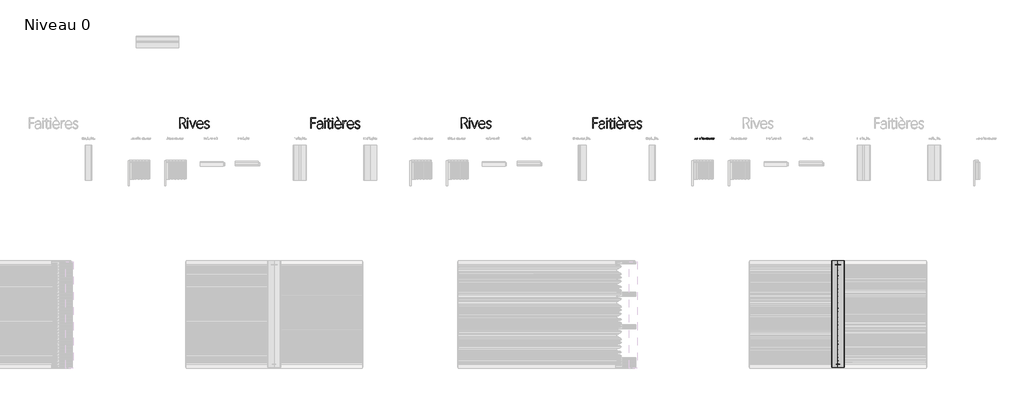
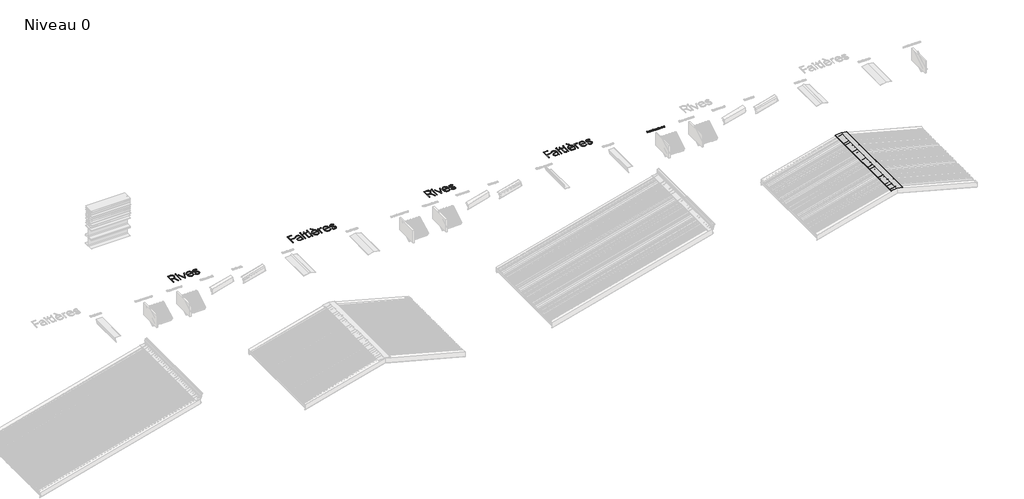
# One storey, part 17 of 26: 6 proxies.
"""IFC4 building model written with IfcOpenShell, lengths in millimetres."""

from ifc_helpers import new_model, si_unit, origin, origin_with_axes, place, context, project, spatial, polyline, outline, extrude, transform, mapped, element, save
from components import generic_models_76f4f1b0

model = new_model("IFC4")

# Units and contexts
model_context = context("Model", 3, world=origin())
ifc_project = project(units=[si_unit("LENGTHUNIT", "METRE", prefix="MILLI")], contexts=[model_context])

# Site, building, storey
site = spatial("IfcSite", under=ifc_project)
building = spatial("IfcBuilding", under=site)
storey = spatial("IfcBuildingStorey", under=building, Name="Niveau 0", Elevation=0.0)

# Proxies
placement = place(None, origin())
generic_models_shape = generic_models_76f4f1b0(model_context)
element("IfcBuildingElementProxy", 1, Name="Faitaire a double plat : Faitaire a double plat", ObjectType="Faitaire a double plat : Faitaire a double plat", at=placement, inside=storey, context=model_context, shape_type="MappedRepresentation", body=[
    mapped(generic_models_shape, transform((19316.3996071, -11691.4337097, 680.0), x_axis=(0.0, -1.0, 0.0), y_axis=(1.0, 0.0, 0.0), z_axis=(0.0, 0.0, 1.0))),
])
element("IfcBuildingElementProxy", 2, Name="0.5mm", ObjectType="0.5mm", at=placement, inside=storey, context=model_context, shape_type="SweptSolid", body=[
    extrude(outline(polyline([(15256.8583104, -8239.2596825), (15275.5442354, -8189.2569805), (15277.5377974, -8189.2569805), (15295.9410531, -8239.2596825), (15293.4714165, -8239.2596825), (15287.5353623, -8223.1177808), (15265.3235105, -8223.1177808), (15259.327947, -8239.2596825), (15256.8583104, -8239.2596825)]), holes=[polyline([(15266.1268862, -8220.9159361), (15286.7022319, -8220.9159361), (15277.879976, -8196.8890501), (15277.1509869, -8194.7987854), (15276.5261391, -8192.8870487), (15275.7153246, -8194.8211014), (15274.9937742, -8196.8295408), (15266.1268862, -8220.9159361)])]), origin_with_axes(), (0.0, 0.0, 1.0), 10.0),
    extrude(outline(polyline([(15319.1645633, -8205.5476555), (15317.4387932, -8204.960001), (15315.713023, -8204.803789), (15308.3710613, -8209.0066344), (15305.4922982, -8221.1242187), (15305.4922982, -8239.2596825), (15303.3648402, -8239.2596825), (15303.3648402, -8203.5540934), (15305.4922982, -8203.5540934), (15305.4922982, -8211.4390777), (15309.5017383, -8205.071581), (15315.8171643, -8202.8251043), (15317.8702357, -8202.9961936), (15319.9976937, -8203.6582347), (15319.1645633, -8205.5476555)])), origin_with_axes(), (0.0, 0.0, 1.0), 10.0),
    extrude(outline(polyline([(15342.0161403, -8205.5476555), (15340.2903702, -8204.960001), (15338.5646, -8204.803789), (15331.2226383, -8209.0066344), (15328.3438752, -8221.1242187), (15328.3438752, -8239.2596825), (15326.2164172, -8239.2596825), (15326.2164172, -8203.5540934), (15328.3438752, -8203.5540934), (15328.3438752, -8211.4390777), (15332.3533153, -8205.071581), (15338.6687413, -8202.8251043), (15340.7218127, -8202.9961936), (15342.8492707, -8203.6582347), (15342.0161403, -8205.5476555)])), origin_with_axes(), (0.0, 0.0, 1.0), 10.0),
    extrude(outline(polyline([(15363.3651071, -8240.0928129), (15351.1433815, -8234.9303798), (15346.4942163, -8221.4812746), (15351.2995935, -8207.9131508), (15363.4990031, -8202.676331), (15375.6389033, -8207.9280281), (15380.2359979, -8221.406888), (15375.579394, -8234.8783092), (15363.3651071, -8240.0928129)]), holes=[polyline([(15363.4394937, -8238.0397415), (15374.0321518, -8233.4054536), (15378.0043986, -8221.3771333), (15374.0470292, -8209.3636903), (15363.4990031, -8204.7442797), (15352.817081, -8209.4455156), (15348.7258156, -8221.5110293), (15352.750133, -8233.4575243), (15363.4394937, -8238.0397415)])]), origin_with_axes(), (0.0, 0.0, 1.0), 10.0),
    extrude(outline(polyline([(15414.5728727, -8239.2596825), (15412.4454147, -8239.2596825), (15412.4454147, -8217.018076), (15409.7228636, -8207.9652214), (15402.1503032, -8204.7442797), (15393.5809618, -8208.19582), (15390.2633175, -8217.018076), (15390.2633175, -8239.2596825), (15388.1061048, -8239.2596825), (15388.1061048, -8203.5540934), (15390.2633175, -8203.5540934), (15390.2633175, -8209.6537982), (15395.1653973, -8204.4764878), (15402.2693218, -8202.676331), (15411.3444924, -8206.4626112), (15414.5728727, -8216.8097934), (15414.5728727, -8239.2596825)])), origin_with_axes(), (0.0, 0.0, 1.0), 10.0),
    extrude(outline(polyline([(15449.9734765, -8231.5532262), (15444.7589728, -8237.8314589), (15436.8442339, -8240.0928129), (15425.8573266, -8235.1237851), (15421.7139905, -8221.9275945), (15426.4375424, -8207.8387641), (15438.1683162, -8202.676331), (15445.1904153, -8204.4021012), (15449.9214059, -8209.3116197), (15450.0255472, -8186.4005333), (15452.1827599, -8186.4005333), (15452.1827599, -8239.2596825), (15450.0255472, -8239.2596825), (15449.9734765, -8231.5532262)]), holes=[polyline([(15423.9455899, -8221.7936985), (15427.5533421, -8233.7699482), (15436.9037432, -8238.0397415), (15446.4475496, -8233.9410374), (15450.0255472, -8223.6087326), (15450.0255472, -8216.1403136), (15446.6409549, -8208.0172921), (15438.1236842, -8204.7442797), (15427.9699073, -8209.3413743), (15423.9455899, -8221.7936985)])]), origin_with_axes(), (0.0, 0.0, 1.0), 10.0),
    extrude(outline(polyline([(15464.2036415, -8194.8359788), (15462.5596967, -8194.211131), (15461.8976556, -8192.5746248), (15462.5596967, -8190.93068), (15464.2036415, -8190.2983935), (15465.8847797, -8190.93068), (15466.4947501, -8192.5746248), (15465.8847797, -8194.211131), (15464.2036415, -8194.8359788)])), origin_with_axes(), (0.0, 0.0, 1.0), 10.0),
    extrude(outline(polyline([(15465.3194412, -8239.2596825), (15463.1473512, -8239.2596825), (15463.1473512, -8203.5540934), (15465.3194412, -8203.5540934), (15465.3194412, -8239.2596825)])), origin_with_axes(), (0.0, 0.0, 1.0), 10.0),
    extrude(outline(polyline([(15521.1391787, -8233.4426469), (15515.8428497, -8238.3521654), (15508.2405347, -8240.0928129), (15496.7031662, -8235.0196438), (15492.1730196, -8221.4812746), (15496.8742555, -8207.7495001), (15508.7612412, -8202.676331), (15515.790779, -8204.3202759), (15521.0647921, -8209.2074784), (15519.3687766, -8210.3827873), (15514.6377861, -8206.02373), (15508.7314865, -8204.6996477), (15498.4438137, -8209.1851624), (15494.4046189, -8221.5110293), (15498.3396724, -8233.5393496), (15508.3149213, -8238.0397415), (15514.72705, -8236.5743246), (15519.4282859, -8232.178074), (15521.1391787, -8233.4426469)])), origin_with_axes(), (0.0, 0.0, 1.0), 10.0),
    extrude(outline(polyline([(15543.3212759, -8240.0928129), (15531.0995503, -8234.9303798), (15526.4503851, -8221.4812746), (15531.2557623, -8207.9131508), (15543.4551719, -8202.676331), (15555.5950722, -8207.9280281), (15560.1921668, -8221.406888), (15555.5355629, -8234.8783092), (15543.3212759, -8240.0928129)]), holes=[polyline([(15543.3956626, -8238.0397415), (15553.9883207, -8233.4054536), (15557.9605674, -8221.3771333), (15554.003198, -8209.3636903), (15543.4551719, -8204.7442797), (15532.7732498, -8209.4455156), (15528.6819844, -8221.5110293), (15532.7063018, -8233.4575243), (15543.3956626, -8238.0397415)])]), origin_with_axes(), (0.0, 0.0, 1.0), 10.0),
    extrude(outline(polyline([(15594.5290416, -8239.2596825), (15592.4015835, -8239.2596825), (15592.4015835, -8217.018076), (15589.6790324, -8207.9652214), (15582.106472, -8204.7442797), (15573.5371307, -8208.19582), (15570.2194863, -8217.018076), (15570.2194863, -8239.2596825), (15568.0622737, -8239.2596825), (15568.0622737, -8203.5540934), (15570.2194863, -8203.5540934), (15570.2194863, -8209.6537982), (15575.1215662, -8204.4764878), (15582.2254907, -8202.676331), (15591.3006612, -8206.4626112), (15594.5290416, -8216.8097934), (15594.5290416, -8239.2596825)])), origin_with_axes(), (0.0, 0.0, 1.0), 10.0),
    extrude(outline(polyline([(15618.8832288, -8237.519035), (15615.9449563, -8239.3861398), (15612.7091373, -8239.9589169), (15607.6731615, -8238.0025482), (15605.9845847, -8232.1483193), (15605.9845847, -8205.5476555), (15599.4385601, -8205.5476555), (15599.4385601, -8203.5540934), (15605.9845847, -8203.5540934), (15605.9845847, -8193.9582164), (15608.1417974, -8193.5862831), (15608.1417974, -8203.5540934), (15617.8715704, -8203.5540934), (15617.8715704, -8205.5476555), (15608.1417974, -8205.5476555), (15608.1417974, -8231.999546), (15609.3319837, -8236.4850607), (15612.8579106, -8237.9653549), (15615.3126699, -8237.496719), (15617.6335331, -8235.9420382), (15618.8832288, -8237.519035)])), origin_with_axes(), (0.0, 0.0, 1.0), 10.0),
    extrude(outline(polyline([(15640.9909393, -8205.5476555), (15639.2651692, -8204.960001), (15637.539399, -8204.803789), (15630.1974373, -8209.0066344), (15627.3186742, -8221.1242187), (15627.3186742, -8239.2596825), (15625.1912162, -8239.2596825), (15625.1912162, -8203.5540934), (15627.3186742, -8203.5540934), (15627.3186742, -8211.4390777), (15631.3281143, -8205.071581), (15637.6435403, -8202.8251043), (15639.6966117, -8202.9961936), (15641.8240697, -8203.6582347), (15640.9909393, -8205.5476555)])), origin_with_axes(), (0.0, 0.0, 1.0), 10.0),
    extrude(outline(polyline([(15674.9261262, -8220.4770549), (15647.6559826, -8220.7374082), (15651.2339802, -8233.7476322), (15661.0902105, -8238.0694962), (15667.8445178, -8236.3957967), (15672.6201403, -8231.3746982), (15674.509561, -8232.3863566), (15669.0347041, -8238.1661988), (15661.0902105, -8240.1374449), (15649.7164926, -8235.3543837), (15645.4690153, -8220.6332669), (15649.8727046, -8207.5932882), (15661.0902105, -8202.676331), (15671.296058, -8207.176723), (15674.9261262, -8220.4770549)]), holes=[polyline([(15672.7242816, -8218.7289688), (15669.4661466, -8208.2776453), (15661.0158238, -8204.7442797), (15651.9183373, -8208.3669093), (15647.7601239, -8218.7289688), (15672.7242816, -8218.7289688)])]), origin_with_axes(), (0.0, 0.0, 1.0), 10.0),
    extrude(outline(polyline([(15747.0960481, -8239.2596825), (15744.9685901, -8239.2596825), (15744.9685901, -8217.018076), (15742.4915149, -8207.7420615), (15735.6256276, -8204.7442797), (15727.9414873, -8208.262768), (15724.8544416, -8217.2263586), (15724.8544416, -8239.2596825), (15722.6972289, -8239.2596825), (15722.6972289, -8216.839548), (15720.413559, -8207.9131508), (15713.6220584, -8204.7442797), (15705.6552488, -8208.1214334), (15702.5682031, -8216.973444), (15702.5682031, -8239.2596825), (15700.4109904, -8239.2596825), (15700.4109904, -8203.5540934), (15702.5682031, -8203.5540934), (15702.5682031, -8209.371129), (15707.2991937, -8204.3723465), (15713.8005863, -8202.676331), (15720.6515962, -8205.0120716), (15724.1254525, -8211.2307951), (15728.7225471, -8204.9302463), (15735.6553823, -8202.676331), (15744.150337, -8206.2915219), (15747.0960481, -8216.839548), (15747.0960481, -8239.2596825)])), origin_with_axes(), (0.0, 0.0, 1.0), 10.0),
    extrude(outline(polyline([(15783.2777117, -8239.2299278), (15781.1502537, -8239.2299278), (15781.1502537, -8233.1153457), (15776.1961032, -8238.3000948), (15769.2930227, -8240.0928129), (15760.1583428, -8236.366042), (15756.8109438, -8226.0486145), (15756.8109438, -8203.5243388), (15758.9681565, -8203.5243388), (15758.9681565, -8225.8403319), (15761.772533, -8234.7816065), (15769.4715506, -8238.0397415), (15777.8326094, -8234.5733239), (15781.1502537, -8225.7659453), (15781.1502537, -8203.5243388), (15783.2777117, -8203.5243388), (15783.2777117, -8239.2299278)])), origin_with_axes(), (0.0, 0.0, 1.0), 10.0),
    extrude(outline(polyline([(15809.5213197, -8205.5476555), (15807.7955495, -8204.960001), (15806.0697794, -8204.803789), (15798.7278176, -8209.0066344), (15795.8490545, -8221.1242187), (15795.8490545, -8239.2596825), (15793.7215965, -8239.2596825), (15793.7215965, -8203.5540934), (15795.8490545, -8203.5540934), (15795.8490545, -8211.4390777), (15799.8584946, -8205.071581), (15806.1739207, -8202.8251043), (15808.2269921, -8202.9961936), (15810.3544501, -8203.6582347), (15809.5213197, -8205.5476555)])), origin_with_axes(), (0.0, 0.0, 1.0), 10.0),
])
element("IfcBuildingElementProxy", 3, Name="3 mm", ObjectType="3 mm", at=placement, inside=storey, context=model_context, shape_type="SweptSolid", body=[
    extrude(outline(polyline([(4494.5792567, -7642.2780058), (4372.6875168, -7642.2780058), (4372.6875168, -7774.3574429), (4486.1045351, -7774.3574429), (4486.1045351, -7787.7006215), (4372.6875168, -7787.7006215), (4372.6875168, -7932.2216711), (4358.7132419, -7932.2216711), (4358.7132419, -7629.205297), (4494.5792567, -7629.205297), (4494.5792567, -7642.2780058)])), origin_with_axes(), (0.0, 0.0, 1.0), 10.0),
    extrude(outline(polyline([(4689.2273828, -7932.2216711), (4676.0645174, -7932.2216711), (4676.0645174, -7890.5693162), (4662.3719819, -7909.2542741), (4644.2843115, -7924.1977326), (4622.5452984, -7934.0022642), (4598.5298307, -7937.2704414), (4570.6263592, -7933.0443502), (4549.8452601, -7920.3660766), (4536.9303253, -7901.0838311), (4532.6253471, -7877.0458244), (4537.3247605, -7852.5119562), (4551.4230008, -7833.0043192), (4575.5737033, -7818.8384615), (4610.4305036, -7810.3299312), (4676.3349872, -7801.0438001), (4676.3349872, -7788.3317178), (4672.187783, -7760.1126981), (4659.7461705, -7739.6471471), (4640.227264, -7727.2055346), (4614.8481776, -7723.0583304), (4594.7319834, -7725.5939852), (4577.1176353, -7733.2009493), (4562.1403681, -7745.7665272), (4549.9354167, -7763.1780229), (4537.9445872, -7756.416277), (4552.6851934, -7736.7057876), (4570.7615941, -7722.2919992), (4591.655389, -7713.4679208), (4614.8481776, -7710.5265613), (4645.38873, -7715.5753316), (4669.0323016, -7730.7216425), (4677.8676496, -7741.9066972), (4684.1786125, -7755.2667802), (4689.2273828, -7788.512031), (4689.2273828, -7932.2216711)]), holes=[polyline([(4676.0645174, -7847.9252386), (4676.0645174, -7813.4854126), (4612.0533226, -7822.1404474), (4582.5721103, -7828.9472717), (4562.1065593, -7840.1717699), (4550.1382691, -7856.0167945), (4546.148839, -7876.6851979), (4549.766373, -7896.7337746), (4560.6189752, -7912.1618249), (4577.6022271, -7922.0001652), (4599.6117101, -7925.279612), (4628.6083305, -7919.7011716), (4653.3901294, -7902.9658504), (4670.3959204, -7878.0488167), (4676.0645174, -7847.9252386)])]), origin_with_axes(), (0.0, 0.0, 1.0), 10.0),
    extrude(outline(polyline([(4757.9267214, -7663.0140266), (4747.9644157, -7659.2274489), (4743.9524465, -7649.3102215), (4747.9644157, -7639.3479159), (4757.9267214, -7635.5162598), (4768.1144186, -7639.3479159), (4771.8108397, -7649.3102215), (4768.1144186, -7659.2274489), (4757.9267214, -7663.0140266)])), origin_with_axes(), (0.0, 0.0, 1.0), 10.0),
    extrude(outline(polyline([(4764.6884673, -7932.2216711), (4751.5256019, -7932.2216711), (4751.5256019, -7715.8458014), (4764.6884673, -7715.8458014), (4764.6884673, -7932.2216711)])), origin_with_axes(), (0.0, 0.0, 1.0), 10.0),
    extrude(outline(polyline([(4927.8719357, -7921.6733475), (4910.0660048, -7932.9880023), (4890.4569416, -7936.4590319), (4872.6848194, -7933.4951333), (4859.9389283, -7924.6034374), (4852.2643467, -7909.8064834), (4849.7061528, -7889.1268104), (4849.7061528, -7727.9267875), (4810.0372433, -7727.9267875), (4810.0372433, -7715.8458014), (4849.7061528, -7715.8458014), (4849.7061528, -7657.6947865), (4862.7788616, -7655.4408712), (4862.7788616, -7715.8458014), (4921.7412861, -7715.8458014), (4921.7412861, -7727.9267875), (4862.7788616, -7727.9267875), (4862.7788616, -7888.2252443), (4864.5819938, -7904.1266168), (4869.9913906, -7915.4074629), (4878.9394343, -7922.1354001), (4891.3585077, -7924.3780458), (4906.2343487, -7921.5381126), (4920.2987803, -7912.1167466), (4927.8719357, -7921.6733475)])), origin_with_axes(), (0.0, 0.0, 1.0), 10.0),
    extrude(outline(polyline([(4971.4175795, -7663.0140266), (4961.4552738, -7659.2274489), (4957.4433045, -7649.3102215), (4961.4552738, -7639.3479159), (4971.4175795, -7635.5162598), (4981.6052767, -7639.3479159), (4985.3016978, -7649.3102215), (4981.6052767, -7659.2274489), (4971.4175795, -7663.0140266)])), origin_with_axes(), (0.0, 0.0, 1.0), 10.0),
    extrude(outline(polyline([(4978.1793254, -7932.2216711), (4965.01646, -7932.2216711), (4965.01646, -7715.8458014), (4978.1793254, -7715.8458014), (4978.1793254, -7932.2216711)])), origin_with_axes(), (0.0, 0.0, 1.0), 10.0),
    extrude(outline(polyline([(5215.5616857, -7819.9766887), (5050.3046153, -7819.9766887), (5051.4231207, -7844.7162266), (5055.4097335, -7866.1030655), (5062.2644534, -7884.1372054), (5071.9872806, -7898.8186462), (5084.0879884, -7910.2093707), (5098.0763503, -7918.3713615), (5113.9523662, -7923.3046187), (5131.7160362, -7925.0091421), (5153.4437798, -7922.4734874), (5172.6471383, -7914.8665232), (5188.8527893, -7902.1882496), (5201.5874108, -7884.4386666), (5213.0373006, -7890.5693162), (5198.522086, -7910.8658236), (5179.8596672, -7925.5951601), (5157.4557491, -7934.5544735), (5131.7160362, -7937.5409112), (5111.2138591, -7935.6279006), (5092.892345, -7930.1593386), (5076.751494, -7921.1352252), (5062.7913061, -7908.5555604), (5051.5301817, -7892.211857), (5043.4865215, -7871.8956279), (5038.6603253, -7847.606873), (5037.0515933, -7819.3455924), (5038.7194906, -7795.9471341), (5043.7231826, -7774.9772696), (5052.0626692, -7756.4359988), (5063.7379505, -7740.3233217), (5077.9939648, -7727.287239), (5094.0756506, -7717.9757514), (5111.9830077, -7712.3888588), (5131.7160362, -7710.5265613), (5150.5249595, -7712.2310848), (5167.1025066, -7717.3446551), (5181.4486775, -7725.8672724), (5193.5634723, -7737.7989366), (5203.1876907, -7752.9649692), (5210.0621324, -7771.1906919), (5215.5616857, -7816.8212073), (5215.5616857, -7819.9766887)]), holes=[polyline([(5202.2185071, -7807.8055461), (5196.8767278, -7771.0103786), (5190.8080609, -7756.4585379), (5182.474209, -7744.4705259), (5160.2055257, -7728.4113793), (5131.2652532, -7723.0583304), (5100.8035878, -7728.5466142), (5076.1344847, -7745.0114655), (5066.3947532, -7757.1685212), (5058.9483805, -7771.6865532), (5050.9357116, -7807.8055461), (5202.2185071, -7807.8055461)])]), origin_with_axes(), (0.0, 0.0, 1.0), 10.0),
    extrude(outline(polyline([(5150.6489248, -7674.8245428), (5137.125433, -7674.8245428), (5086.0066338, -7607.2070836), (5101.1529446, -7607.2070836), (5150.6489248, -7674.8245428)])), origin_with_axes(), (0.0, 0.0, 1.0), 10.0),
    extrude(outline(polyline([(5361.8858676, -7727.9267875), (5351.4277006, -7724.3656013), (5340.9695335, -7723.4189569), (5328.0461466, -7725.0107846), (5316.3229696, -7729.7862676), (5296.4772453, -7748.8881999), (5283.393267, -7779.9809616), (5279.0319408, -7822.3207606), (5279.0319408, -7932.2216711), (5266.1395453, -7932.2216711), (5266.1395453, -7715.8458014), (5279.0319408, -7715.8458014), (5279.0319408, -7763.628806), (5289.2759859, -7741.4953577), (5303.3291479, -7725.0417759), (5321.0336526, -7714.8315396), (5341.6006298, -7711.4281274), (5354.0422423, -7712.4649285), (5366.9346379, -7716.4768977), (5361.8858676, -7727.9267875)])), origin_with_axes(), (0.0, 0.0, 1.0), 10.0),
    extrude(outline(polyline([(5567.5331004, -7819.9766887), (5402.2760299, -7819.9766887), (5403.3945354, -7844.7162266), (5407.3811481, -7866.1030655), (5414.235868, -7884.1372054), (5423.9586952, -7898.8186462), (5436.059403, -7910.2093707), (5450.0477649, -7918.3713615), (5465.9237809, -7923.3046187), (5483.6874509, -7925.0091421), (5505.4151945, -7922.4734874), (5524.6185529, -7914.8665232), (5540.824204, -7902.1882496), (5553.5588255, -7884.4386666), (5565.0087152, -7890.5693162), (5550.4935007, -7910.8658236), (5531.8310819, -7925.5951601), (5509.4271637, -7934.5544735), (5483.6874509, -7937.5409112), (5463.1852738, -7935.6279006), (5444.8637597, -7930.1593386), (5428.7229087, -7921.1352252), (5414.7627207, -7908.5555604), (5403.5015964, -7892.211857), (5395.4579361, -7871.8956279), (5390.63174, -7847.606873), (5389.0230079, -7819.3455924), (5390.6909052, -7795.9471341), (5395.6945972, -7774.9772696), (5404.0340839, -7756.4359988), (5415.7093652, -7740.3233217), (5429.9653795, -7727.287239), (5446.0470652, -7717.9757514), (5463.9544224, -7712.3888588), (5483.6874509, -7710.5265613), (5502.4963742, -7712.2310848), (5519.0739212, -7717.3446551), (5533.4200922, -7725.8672724), (5545.534887, -7737.7989366), (5555.1591053, -7752.9649692), (5562.033547, -7771.1906919), (5567.5331004, -7816.8212073), (5567.5331004, -7819.9766887)]), holes=[polyline([(5554.1899218, -7807.8055461), (5548.8481425, -7771.0103786), (5542.7794755, -7756.4585379), (5534.4456237, -7744.4705259), (5512.1769404, -7728.4113793), (5483.2366678, -7723.0583304), (5452.7750024, -7728.5466142), (5428.1058994, -7745.0114655), (5418.3661678, -7757.1685212), (5410.9197951, -7771.6865532), (5402.9071262, -7807.8055461), (5554.1899218, -7807.8055461)])]), origin_with_axes(), (0.0, 0.0, 1.0), 10.0),
    extrude(outline(polyline([(5606.93154, -7895.25746), (5619.1928393, -7889.3071236), (5628.7607098, -7904.7915218), (5641.9573839, -7916.0836375), (5658.6025485, -7922.9806183), (5678.5158902, -7925.279612), (5698.2376492, -7922.0565131), (5714.6686918, -7912.3872164), (5725.7579551, -7897.1732881), (5729.4543762, -7877.3162942), (5726.5468254, -7860.2766945), (5717.8241732, -7846.8433592), (5701.2353565, -7835.3709303), (5674.7293125, -7824.2140495), (5646.7356844, -7812.2457592), (5629.1100666, -7799.6012943), (5619.7788573, -7784.9057665), (5616.6684541, -7766.7842874), (5621.2551718, -7743.6365772), (5635.0153247, -7725.7630288), (5655.6048411, -7714.3356782), (5680.6796489, -7710.5265613), (5698.9589021, -7712.6227026), (5715.7505711, -7718.9111263), (5730.2207074, -7729.0988235), (5741.5353622, -7742.8927852), (5730.2657857, -7749.203748), (5720.8669589, -7737.7087799), (5708.7183553, -7729.3692933), (5694.834237, -7724.2979839), (5680.2288658, -7722.6075474), (5660.0563238, -7725.5376373), (5643.8957511, -7734.327907), (5633.27981, -7747.9190163), (5629.7411629, -7765.251625), (5632.1979306, -7779.6654134), (5639.5682337, -7791.1716511), (5654.489153, -7801.3480787), (5679.5977696, -7811.772437), (5709.4396082, -7824.3718236), (5728.8232799, -7838.0080112), (5739.439221, -7854.6419062), (5742.977868, -7876.2344148), (5738.3009938, -7901.6698491), (5724.270371, -7920.9971729), (5703.4780023, -7933.2021243), (5678.5158902, -7937.2704414), (5654.5004226, -7934.4192385), (5634.3842285, -7925.8656299), (5618.4377776, -7912.5111817), (5606.93154, -7895.25746)])), origin_with_axes(), (0.0, 0.0, 1.0), 10.0),
])
element("IfcBuildingElementProxy", 4, Name="3 mm", ObjectType="3 mm", at=placement, inside=storey, context=model_context, shape_type="SweptSolid", body=[
    extrude(outline(polyline([(804.4475334, -7929.2596825), (789.0307527, -7929.2596825), (749.2716866, -7838.6522871), (736.8638828, -7815.7186988), (723.8024436, -7801.0119014), (708.2166193, -7793.0668499), (688.23566, -7790.4184994), (643.8786068, -7790.4184994), (643.8786068, -7929.2596825), (629.9043318, -7929.2596825), (629.9043318, -7626.2433083), (707.4390185, -7626.2433083), (742.340897, -7631.573818), (756.9603552, -7638.2369552), (769.6921593, -7647.5653472), (780.0066392, -7659.1701936), (787.3741249, -7672.6626941), (791.7946163, -7688.0428487), (793.2681134, -7705.3106574), (788.0841082, -7734.5439389), (772.5320926, -7758.9538417), (749.0688342, -7776.7597727), (720.1511008, -7786.1811387), (732.7842961, -7792.2103621), (743.2762719, -7801.7331543), (761.7132991, -7833.3330469), (804.4475334, -7929.2596825)]), holes=[polyline([(643.8786068, -7639.1357039), (643.8786068, -7777.5261039), (698.1528874, -7777.5261039), (731.0938596, -7772.4886032), (756.8899203, -7757.376101), (773.5576241, -7734.487591), (779.1135253, -7706.1220669), (774.2225291, -7678.308752), (759.5495404, -7657.0768698), (736.379291, -7643.6209954), (705.9965127, -7639.1357039), (643.8786068, -7639.1357039)])]), origin_with_axes(), (0.0, 0.0, 1.0), 10.0),
    extrude(outline(polyline([(861.7871388, -7660.052038), (851.8248332, -7656.2654602), (847.8128639, -7646.3482329), (851.8248332, -7636.3859272), (861.7871388, -7632.5542712), (871.974836, -7636.3859272), (875.6712571, -7646.3482329), (871.974836, -7656.2654602), (861.7871388, -7660.052038)])), origin_with_axes(), (0.0, 0.0, 1.0), 10.0),
    extrude(outline(polyline([(868.5488848, -7929.2596825), (855.3860194, -7929.2596825), (855.3860194, -7712.8838128), (868.5488848, -7712.8838128), (868.5488848, -7929.2596825)])), origin_with_axes(), (0.0, 0.0, 1.0), 10.0),
    extrude(outline(polyline([(1094.3010421, -7712.8838128), (1008.742417, -7929.2596825), (998.1940933, -7929.2596825), (913.8976608, -7712.8838128), (928.4128754, -7712.8838128), (997.562997, -7891.6643751), (1000.8086351, -7899.9587835), (1003.4231768, -7907.0811558), (1007.1646763, -7899.6883136), (1010.1849228, -7892.0250016), (1080.3267672, -7712.8838128), (1094.3010421, -7712.8838128)])), origin_with_axes(), (0.0, 0.0, 1.0), 10.0),
    extrude(outline(polyline([(1296.3420104, -7817.0147001), (1131.08494, -7817.0147001), (1132.2034454, -7841.754238), (1136.1900581, -7863.1410769), (1143.0447781, -7881.1752168), (1152.7676052, -7895.8566576), (1164.868313, -7907.2473821), (1178.8566749, -7915.4093729), (1194.7326909, -7920.34263), (1212.4963609, -7922.0471535), (1234.2241045, -7919.5114988), (1253.4274629, -7911.9045346), (1269.633114, -7899.226261), (1282.3677355, -7881.4766779), (1293.8176253, -7887.6073276), (1279.3024107, -7907.9038349), (1260.6399919, -7922.6331715), (1238.2360737, -7931.5924848), (1212.4963609, -7934.5789226), (1191.9941838, -7932.665912), (1173.6726697, -7927.19735), (1157.5318187, -7918.1732366), (1143.5716308, -7905.5935717), (1132.3105064, -7889.2498683), (1124.2668461, -7868.9336392), (1119.44065, -7844.6448844), (1117.8319179, -7816.3836038), (1119.4998153, -7792.9851455), (1124.5035073, -7772.0152809), (1132.8429939, -7753.4740101), (1144.5182752, -7737.3613331), (1158.7742895, -7724.3252504), (1174.8559753, -7715.0137628), (1192.7633324, -7709.4268702), (1212.4963609, -7707.5645727), (1231.3052842, -7709.2690961), (1247.8828313, -7714.3826665), (1262.2290022, -7722.9052838), (1274.343797, -7734.8369479), (1283.9680154, -7750.0029806), (1290.8424571, -7768.2287032), (1296.3420104, -7813.8592187), (1296.3420104, -7817.0147001)]), holes=[polyline([(1282.9988318, -7804.8435574), (1277.6570525, -7768.04839), (1271.5883855, -7753.4965493), (1263.2545337, -7741.5085372), (1240.9858504, -7725.4493907), (1212.0455779, -7720.0963418), (1181.5839125, -7725.5846256), (1156.9148094, -7742.0494769), (1147.1750779, -7754.2065326), (1139.7287052, -7768.7245646), (1131.7160362, -7804.8435574), (1282.9988318, -7804.8435574)])]), origin_with_axes(), (0.0, 0.0, 1.0), 10.0),
    extrude(outline(polyline([(1335.74045, -7892.2954714), (1348.0017493, -7886.345135), (1357.5696198, -7901.8295332), (1370.7662939, -7913.1216489), (1387.4114585, -7920.0186297), (1407.3248002, -7922.3176233), (1427.0465592, -7919.0945244), (1443.4776018, -7909.4252278), (1454.5668651, -7894.2112994), (1458.2632862, -7874.3543056), (1455.3557355, -7857.3147058), (1446.6330832, -7843.8813706), (1430.0442665, -7832.4089416), (1403.5382225, -7821.2520609), (1375.5445944, -7809.2837706), (1357.9189767, -7796.6393057), (1348.5877673, -7781.9437779), (1345.4773641, -7763.8222988), (1350.0640818, -7740.6745886), (1363.8242348, -7722.8010402), (1384.4137511, -7711.3736896), (1409.4885589, -7707.5645727), (1427.7678121, -7709.6607139), (1444.5594811, -7715.9491376), (1459.0296174, -7726.1368348), (1470.3442723, -7739.9307965), (1459.0746957, -7746.2417594), (1449.6758689, -7734.7467913), (1437.5272654, -7726.4073047), (1423.6431471, -7721.3359952), (1409.0377759, -7719.6455587), (1388.8652338, -7722.5756486), (1372.7046611, -7731.3659183), (1362.08872, -7744.9570277), (1358.5500729, -7762.2896364), (1361.0068406, -7776.7034248), (1368.3771437, -7788.2096624), (1383.298063, -7798.3860901), (1408.4066796, -7808.8104484), (1438.2485183, -7821.4098349), (1457.6321899, -7835.0460226), (1468.248131, -7851.6799175), (1471.7867781, -7873.2724262), (1467.1099038, -7898.7078605), (1453.079281, -7918.0351842), (1432.2869123, -7930.2401356), (1407.3248002, -7934.3084528), (1383.3093326, -7931.4572499), (1363.1931385, -7922.9036413), (1347.2466877, -7909.5491931), (1335.74045, -7892.2954714)])), origin_with_axes(), (0.0, 0.0, 1.0), 10.0),
])
element("IfcBuildingElementProxy", 5, Name="3 mm", ObjectType="3 mm", at=placement, inside=storey, context=model_context, shape_type="SweptSolid", body=[
    extrude(outline(polyline([(12494.5792567, -7642.2780058), (12372.6875168, -7642.2780058), (12372.6875168, -7774.3574429), (12486.1045351, -7774.3574429), (12486.1045351, -7787.7006215), (12372.6875168, -7787.7006215), (12372.6875168, -7932.2216711), (12358.7132419, -7932.2216711), (12358.7132419, -7629.205297), (12494.5792567, -7629.205297), (12494.5792567, -7642.2780058)])), origin_with_axes(), (0.0, 0.0, 1.0), 10.0),
    extrude(outline(polyline([(12689.2273828, -7932.2216711), (12676.0645174, -7932.2216711), (12676.0645174, -7890.5693162), (12662.3719819, -7909.2542741), (12644.2843115, -7924.1977326), (12622.5452984, -7934.0022642), (12598.5298307, -7937.2704414), (12570.6263592, -7933.0443502), (12549.8452601, -7920.3660766), (12536.9303253, -7901.0838311), (12532.6253471, -7877.0458244), (12537.3247605, -7852.5119562), (12551.4230008, -7833.0043192), (12575.5737033, -7818.8384615), (12610.4305036, -7810.3299312), (12676.3349872, -7801.0438001), (12676.3349872, -7788.3317178), (12672.187783, -7760.1126981), (12659.7461705, -7739.6471471), (12640.227264, -7727.2055346), (12614.8481776, -7723.0583304), (12594.7319834, -7725.5939852), (12577.1176353, -7733.2009493), (12562.1403681, -7745.7665272), (12549.9354167, -7763.1780229), (12537.9445872, -7756.416277), (12552.6851934, -7736.7057876), (12570.7615941, -7722.2919992), (12591.655389, -7713.4679208), (12614.8481776, -7710.5265613), (12645.38873, -7715.5753316), (12669.0323016, -7730.7216425), (12677.8676496, -7741.9066972), (12684.1786125, -7755.2667802), (12689.2273828, -7788.512031), (12689.2273828, -7932.2216711)]), holes=[polyline([(12676.0645174, -7847.9252386), (12676.0645174, -7813.4854126), (12612.0533226, -7822.1404474), (12582.5721103, -7828.9472717), (12562.1065593, -7840.1717699), (12550.1382691, -7856.0167945), (12546.148839, -7876.6851979), (12549.766373, -7896.7337746), (12560.6189752, -7912.1618249), (12577.6022271, -7922.0001652), (12599.6117101, -7925.279612), (12628.6083305, -7919.7011716), (12653.3901294, -7902.9658504), (12670.3959204, -7878.0488167), (12676.0645174, -7847.9252386)])]), origin_with_axes(), (0.0, 0.0, 1.0), 10.0),
    extrude(outline(polyline([(12757.9267214, -7663.0140266), (12747.9644157, -7659.2274489), (12743.9524465, -7649.3102215), (12747.9644157, -7639.3479159), (12757.9267214, -7635.5162598), (12768.1144186, -7639.3479159), (12771.8108397, -7649.3102215), (12768.1144186, -7659.2274489), (12757.9267214, -7663.0140266)])), origin_with_axes(), (0.0, 0.0, 1.0), 10.0),
    extrude(outline(polyline([(12764.6884673, -7932.2216711), (12751.5256019, -7932.2216711), (12751.5256019, -7715.8458014), (12764.6884673, -7715.8458014), (12764.6884673, -7932.2216711)])), origin_with_axes(), (0.0, 0.0, 1.0), 10.0),
    extrude(outline(polyline([(12927.8719357, -7921.6733475), (12910.0660048, -7932.9880023), (12890.4569416, -7936.4590319), (12872.6848194, -7933.4951333), (12859.9389283, -7924.6034374), (12852.2643467, -7909.8064834), (12849.7061528, -7889.1268104), (12849.7061528, -7727.9267875), (12810.0372433, -7727.9267875), (12810.0372433, -7715.8458014), (12849.7061528, -7715.8458014), (12849.7061528, -7657.6947865), (12862.7788616, -7655.4408712), (12862.7788616, -7715.8458014), (12921.7412861, -7715.8458014), (12921.7412861, -7727.9267875), (12862.7788616, -7727.9267875), (12862.7788616, -7888.2252443), (12864.5819938, -7904.1266168), (12869.9913906, -7915.4074629), (12878.9394343, -7922.1354001), (12891.3585077, -7924.3780458), (12906.2343487, -7921.5381126), (12920.2987803, -7912.1167466), (12927.8719357, -7921.6733475)])), origin_with_axes(), (0.0, 0.0, 1.0), 10.0),
    extrude(outline(polyline([(12971.4175795, -7663.0140266), (12961.4552738, -7659.2274489), (12957.4433045, -7649.3102215), (12961.4552738, -7639.3479159), (12971.4175795, -7635.5162598), (12981.6052767, -7639.3479159), (12985.3016978, -7649.3102215), (12981.6052767, -7659.2274489), (12971.4175795, -7663.0140266)])), origin_with_axes(), (0.0, 0.0, 1.0), 10.0),
    extrude(outline(polyline([(12978.1793254, -7932.2216711), (12965.01646, -7932.2216711), (12965.01646, -7715.8458014), (12978.1793254, -7715.8458014), (12978.1793254, -7932.2216711)])), origin_with_axes(), (0.0, 0.0, 1.0), 10.0),
    extrude(outline(polyline([(13215.5616857, -7819.9766887), (13050.3046153, -7819.9766887), (13051.4231207, -7844.7162266), (13055.4097335, -7866.1030655), (13062.2644534, -7884.1372054), (13071.9872806, -7898.8186462), (13084.0879884, -7910.2093707), (13098.0763503, -7918.3713615), (13113.9523662, -7923.3046187), (13131.7160362, -7925.0091421), (13153.4437798, -7922.4734874), (13172.6471383, -7914.8665232), (13188.8527893, -7902.1882496), (13201.5874108, -7884.4386666), (13213.0373006, -7890.5693162), (13198.522086, -7910.8658236), (13179.8596672, -7925.5951601), (13157.4557491, -7934.5544735), (13131.7160362, -7937.5409112), (13111.2138591, -7935.6279006), (13092.892345, -7930.1593386), (13076.751494, -7921.1352252), (13062.7913061, -7908.5555604), (13051.5301817, -7892.211857), (13043.4865215, -7871.8956279), (13038.6603253, -7847.606873), (13037.0515933, -7819.3455924), (13038.7194906, -7795.9471341), (13043.7231826, -7774.9772696), (13052.0626692, -7756.4359988), (13063.7379505, -7740.3233217), (13077.9939648, -7727.287239), (13094.0756506, -7717.9757514), (13111.9830077, -7712.3888588), (13131.7160362, -7710.5265613), (13150.5249595, -7712.2310848), (13167.1025066, -7717.3446551), (13181.4486775, -7725.8672724), (13193.5634723, -7737.7989366), (13203.1876907, -7752.9649692), (13210.0621324, -7771.1906919), (13215.5616857, -7816.8212073), (13215.5616857, -7819.9766887)]), holes=[polyline([(13202.2185071, -7807.8055461), (13196.8767278, -7771.0103786), (13190.8080609, -7756.4585379), (13182.474209, -7744.4705259), (13160.2055257, -7728.4113793), (13131.2652532, -7723.0583304), (13100.8035878, -7728.5466142), (13076.1344847, -7745.0114655), (13066.3947532, -7757.1685212), (13058.9483805, -7771.6865532), (13050.9357116, -7807.8055461), (13202.2185071, -7807.8055461)])]), origin_with_axes(), (0.0, 0.0, 1.0), 10.0),
    extrude(outline(polyline([(13150.6489248, -7674.8245428), (13137.125433, -7674.8245428), (13086.0066338, -7607.2070836), (13101.1529446, -7607.2070836), (13150.6489248, -7674.8245428)])), origin_with_axes(), (0.0, 0.0, 1.0), 10.0),
    extrude(outline(polyline([(13361.8858676, -7727.9267875), (13351.4277006, -7724.3656013), (13340.9695335, -7723.4189569), (13328.0461466, -7725.0107846), (13316.3229696, -7729.7862676), (13296.4772453, -7748.8881999), (13283.393267, -7779.9809616), (13279.0319408, -7822.3207606), (13279.0319408, -7932.2216711), (13266.1395453, -7932.2216711), (13266.1395453, -7715.8458014), (13279.0319408, -7715.8458014), (13279.0319408, -7763.628806), (13289.2759859, -7741.4953577), (13303.3291479, -7725.0417759), (13321.0336526, -7714.8315396), (13341.6006298, -7711.4281274), (13354.0422423, -7712.4649285), (13366.9346379, -7716.4768977), (13361.8858676, -7727.9267875)])), origin_with_axes(), (0.0, 0.0, 1.0), 10.0),
    extrude(outline(polyline([(13567.5331004, -7819.9766887), (13402.2760299, -7819.9766887), (13403.3945354, -7844.7162266), (13407.3811481, -7866.1030655), (13414.235868, -7884.1372054), (13423.9586952, -7898.8186462), (13436.059403, -7910.2093707), (13450.0477649, -7918.3713615), (13465.9237809, -7923.3046187), (13483.6874509, -7925.0091421), (13505.4151945, -7922.4734874), (13524.6185529, -7914.8665232), (13540.824204, -7902.1882496), (13553.5588255, -7884.4386666), (13565.0087152, -7890.5693162), (13550.4935007, -7910.8658236), (13531.8310819, -7925.5951601), (13509.4271637, -7934.5544735), (13483.6874509, -7937.5409112), (13463.1852738, -7935.6279006), (13444.8637597, -7930.1593386), (13428.7229087, -7921.1352252), (13414.7627207, -7908.5555604), (13403.5015964, -7892.211857), (13395.4579361, -7871.8956279), (13390.63174, -7847.606873), (13389.0230079, -7819.3455924), (13390.6909052, -7795.9471341), (13395.6945972, -7774.9772696), (13404.0340839, -7756.4359988), (13415.7093652, -7740.3233217), (13429.9653795, -7727.287239), (13446.0470652, -7717.9757514), (13463.9544224, -7712.3888588), (13483.6874509, -7710.5265613), (13502.4963742, -7712.2310848), (13519.0739212, -7717.3446551), (13533.4200922, -7725.8672724), (13545.534887, -7737.7989366), (13555.1591053, -7752.9649692), (13562.033547, -7771.1906919), (13567.5331004, -7816.8212073), (13567.5331004, -7819.9766887)]), holes=[polyline([(13554.1899218, -7807.8055461), (13548.8481425, -7771.0103786), (13542.7794755, -7756.4585379), (13534.4456237, -7744.4705259), (13512.1769404, -7728.4113793), (13483.2366678, -7723.0583304), (13452.7750024, -7728.5466142), (13428.1058994, -7745.0114655), (13418.3661678, -7757.1685212), (13410.9197951, -7771.6865532), (13402.9071262, -7807.8055461), (13554.1899218, -7807.8055461)])]), origin_with_axes(), (0.0, 0.0, 1.0), 10.0),
    extrude(outline(polyline([(13606.93154, -7895.25746), (13619.1928393, -7889.3071236), (13628.7607098, -7904.7915218), (13641.9573839, -7916.0836375), (13658.6025485, -7922.9806183), (13678.5158902, -7925.279612), (13698.2376492, -7922.0565131), (13714.6686918, -7912.3872164), (13725.7579551, -7897.1732881), (13729.4543762, -7877.3162942), (13726.5468254, -7860.2766945), (13717.8241732, -7846.8433592), (13701.2353565, -7835.3709303), (13674.7293125, -7824.2140495), (13646.7356844, -7812.2457592), (13629.1100666, -7799.6012943), (13619.7788573, -7784.9057665), (13616.6684541, -7766.7842874), (13621.2551718, -7743.6365772), (13635.0153247, -7725.7630288), (13655.6048411, -7714.3356782), (13680.6796489, -7710.5265613), (13698.9589021, -7712.6227026), (13715.7505711, -7718.9111263), (13730.2207074, -7729.0988235), (13741.5353622, -7742.8927852), (13730.2657857, -7749.203748), (13720.8669589, -7737.7087799), (13708.7183553, -7729.3692933), (13694.834237, -7724.2979839), (13680.2288658, -7722.6075474), (13660.0563238, -7725.5376373), (13643.8957511, -7734.327907), (13633.27981, -7747.9190163), (13629.7411629, -7765.251625), (13632.1979306, -7779.6654134), (13639.5682337, -7791.1716511), (13654.489153, -7801.3480787), (13679.5977696, -7811.772437), (13709.4396082, -7824.3718236), (13728.8232799, -7838.0080112), (13739.439221, -7854.6419062), (13742.977868, -7876.2344148), (13738.3009938, -7901.6698491), (13724.270371, -7920.9971729), (13703.4780023, -7933.2021243), (13678.5158902, -7937.2704414), (13654.5004226, -7934.4192385), (13634.3842285, -7925.8656299), (13618.4377776, -7912.5111817), (13606.93154, -7895.25746)])), origin_with_axes(), (0.0, 0.0, 1.0), 10.0),
])
element("IfcBuildingElementProxy", 6, Name="3 mm", ObjectType="3 mm", at=placement, inside=storey, context=model_context, shape_type="SweptSolid", body=[
    extrude(outline(polyline([(8804.4475334, -7929.2596825), (8789.0307527, -7929.2596825), (8749.2716866, -7838.6522871), (8736.8638828, -7815.7186988), (8723.8024436, -7801.0119014), (8708.2166193, -7793.0668499), (8688.23566, -7790.4184994), (8643.8786068, -7790.4184994), (8643.8786068, -7929.2596825), (8629.9043318, -7929.2596825), (8629.9043318, -7626.2433083), (8707.4390185, -7626.2433083), (8742.340897, -7631.573818), (8756.9603552, -7638.2369552), (8769.6921593, -7647.5653472), (8780.0066392, -7659.1701936), (8787.3741249, -7672.6626941), (8791.7946163, -7688.0428487), (8793.2681134, -7705.3106574), (8788.0841082, -7734.5439389), (8772.5320926, -7758.9538417), (8749.0688342, -7776.7597727), (8720.1511008, -7786.1811387), (8732.7842961, -7792.2103621), (8743.2762719, -7801.7331543), (8761.7132991, -7833.3330469), (8804.4475334, -7929.2596825)]), holes=[polyline([(8643.8786068, -7639.1357039), (8643.8786068, -7777.5261039), (8698.1528874, -7777.5261039), (8731.0938596, -7772.4886032), (8756.8899203, -7757.376101), (8773.5576241, -7734.487591), (8779.1135253, -7706.1220669), (8774.2225291, -7678.308752), (8759.5495404, -7657.0768698), (8736.379291, -7643.6209954), (8705.9965127, -7639.1357039), (8643.8786068, -7639.1357039)])]), origin_with_axes(), (0.0, 0.0, 1.0), 10.0),
    extrude(outline(polyline([(8861.7871388, -7660.052038), (8851.8248332, -7656.2654602), (8847.8128639, -7646.3482329), (8851.8248332, -7636.3859272), (8861.7871388, -7632.5542712), (8871.974836, -7636.3859272), (8875.6712571, -7646.3482329), (8871.974836, -7656.2654602), (8861.7871388, -7660.052038)])), origin_with_axes(), (0.0, 0.0, 1.0), 10.0),
    extrude(outline(polyline([(8868.5488848, -7929.2596825), (8855.3860194, -7929.2596825), (8855.3860194, -7712.8838128), (8868.5488848, -7712.8838128), (8868.5488848, -7929.2596825)])), origin_with_axes(), (0.0, 0.0, 1.0), 10.0),
    extrude(outline(polyline([(9094.3010421, -7712.8838128), (9008.742417, -7929.2596825), (8998.1940933, -7929.2596825), (8913.8976608, -7712.8838128), (8928.4128754, -7712.8838128), (8997.562997, -7891.6643751), (9000.8086351, -7899.9587835), (9003.4231768, -7907.0811558), (9007.1646763, -7899.6883136), (9010.1849228, -7892.0250016), (9080.3267672, -7712.8838128), (9094.3010421, -7712.8838128)])), origin_with_axes(), (0.0, 0.0, 1.0), 10.0),
    extrude(outline(polyline([(9296.3420104, -7817.0147001), (9131.08494, -7817.0147001), (9132.2034454, -7841.754238), (9136.1900581, -7863.1410769), (9143.0447781, -7881.1752168), (9152.7676052, -7895.8566576), (9164.868313, -7907.2473821), (9178.8566749, -7915.4093729), (9194.7326909, -7920.34263), (9212.4963609, -7922.0471535), (9234.2241045, -7919.5114988), (9253.4274629, -7911.9045346), (9269.633114, -7899.226261), (9282.3677355, -7881.4766779), (9293.8176253, -7887.6073276), (9279.3024107, -7907.9038349), (9260.6399919, -7922.6331715), (9238.2360737, -7931.5924848), (9212.4963609, -7934.5789226), (9191.9941838, -7932.665912), (9173.6726697, -7927.19735), (9157.5318187, -7918.1732366), (9143.5716308, -7905.5935717), (9132.3105064, -7889.2498683), (9124.2668461, -7868.9336392), (9119.44065, -7844.6448844), (9117.8319179, -7816.3836038), (9119.4998153, -7792.9851455), (9124.5035073, -7772.0152809), (9132.8429939, -7753.4740101), (9144.5182752, -7737.3613331), (9158.7742895, -7724.3252504), (9174.8559753, -7715.0137628), (9192.7633324, -7709.4268702), (9212.4963609, -7707.5645727), (9231.3052842, -7709.2690961), (9247.8828313, -7714.3826665), (9262.2290022, -7722.9052838), (9274.343797, -7734.8369479), (9283.9680154, -7750.0029806), (9290.8424571, -7768.2287032), (9296.3420104, -7813.8592187), (9296.3420104, -7817.0147001)]), holes=[polyline([(9282.9988318, -7804.8435574), (9277.6570525, -7768.04839), (9271.5883855, -7753.4965493), (9263.2545337, -7741.5085372), (9240.9858504, -7725.4493907), (9212.0455779, -7720.0963418), (9181.5839125, -7725.5846256), (9156.9148094, -7742.0494769), (9147.1750779, -7754.2065326), (9139.7287052, -7768.7245646), (9131.7160362, -7804.8435574), (9282.9988318, -7804.8435574)])]), origin_with_axes(), (0.0, 0.0, 1.0), 10.0),
    extrude(outline(polyline([(9335.74045, -7892.2954714), (9348.0017493, -7886.345135), (9357.5696198, -7901.8295332), (9370.7662939, -7913.1216489), (9387.4114585, -7920.0186297), (9407.3248002, -7922.3176233), (9427.0465592, -7919.0945244), (9443.4776018, -7909.4252278), (9454.5668651, -7894.2112994), (9458.2632862, -7874.3543056), (9455.3557355, -7857.3147058), (9446.6330832, -7843.8813706), (9430.0442665, -7832.4089416), (9403.5382225, -7821.2520609), (9375.5445944, -7809.2837706), (9357.9189767, -7796.6393057), (9348.5877673, -7781.9437779), (9345.4773641, -7763.8222988), (9350.0640818, -7740.6745886), (9363.8242348, -7722.8010402), (9384.4137511, -7711.3736896), (9409.4885589, -7707.5645727), (9427.7678121, -7709.6607139), (9444.5594811, -7715.9491376), (9459.0296174, -7726.1368348), (9470.3442723, -7739.9307965), (9459.0746957, -7746.2417594), (9449.6758689, -7734.7467913), (9437.5272654, -7726.4073047), (9423.6431471, -7721.3359952), (9409.0377759, -7719.6455587), (9388.8652338, -7722.5756486), (9372.7046611, -7731.3659183), (9362.08872, -7744.9570277), (9358.5500729, -7762.2896364), (9361.0068406, -7776.7034248), (9368.3771437, -7788.2096624), (9383.298063, -7798.3860901), (9408.4066796, -7808.8104484), (9438.2485183, -7821.4098349), (9457.6321899, -7835.0460226), (9468.248131, -7851.6799175), (9471.7867781, -7873.2724262), (9467.1099038, -7898.7078605), (9453.079281, -7918.0351842), (9432.2869123, -7930.2401356), (9407.3248002, -7934.3084528), (9383.3093326, -7931.4572499), (9363.1931385, -7922.9036413), (9347.2466877, -7909.5491931), (9335.74045, -7892.2954714)])), origin_with_axes(), (0.0, 0.0, 1.0), 10.0),
])

save(model, "model.ifc")
